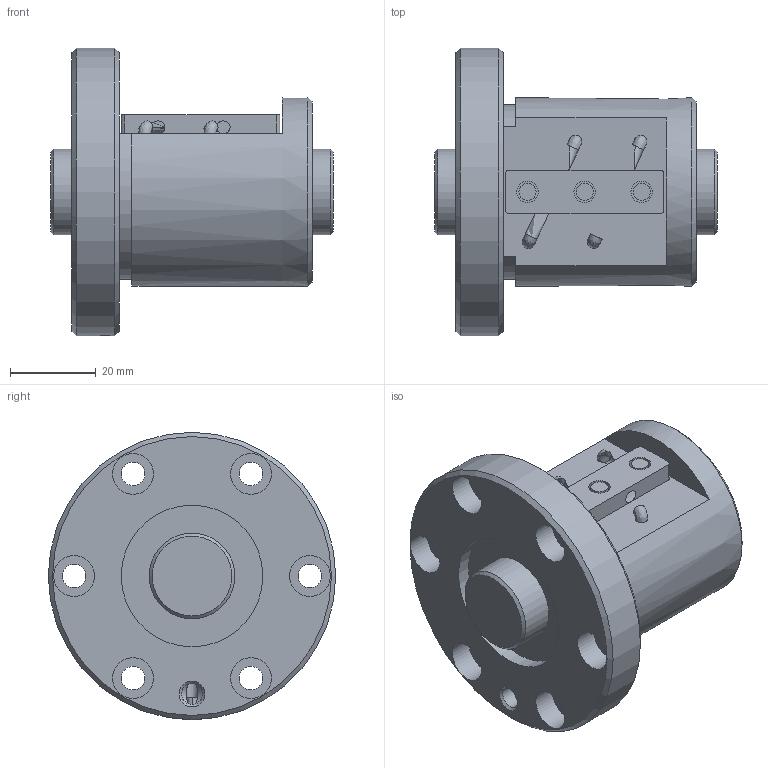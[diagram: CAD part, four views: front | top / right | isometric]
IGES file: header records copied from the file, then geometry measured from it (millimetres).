
Start section: Data from Parasolid IGES Translator 26.0.171, Copyright(c) 2006 Siemens PLM Software. All Rights Reserved.
Global section: file name: BNF2005V-5RRG1+66LC0_000_rev.igs; native system: By Siemens PLM Incorporated; preprocessor: XPlus GENERIC/IGES 26.0.171; author: Noname; organization: Noname; date: 20240806.072818; units: millimetre
Bounding box: 66 x 67 x 67 mm (x, y, z)
Surface area: 25979 mm2 (no closed solid volume)
Topology: 0 solids, 0 shells, 80 faces, 352 edges, 300 vertices
Faces by surface type: revolution 51, extrusion 29
